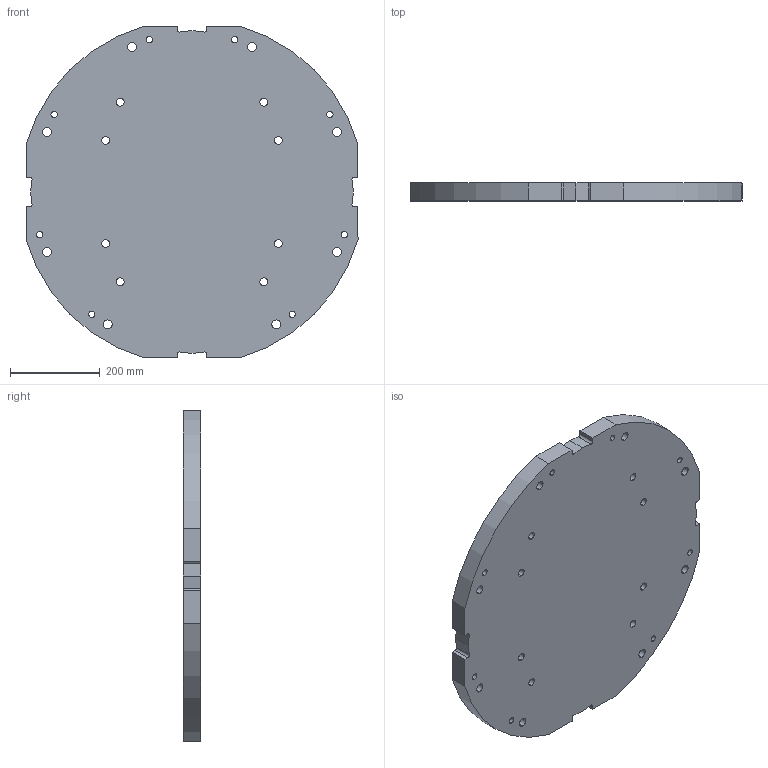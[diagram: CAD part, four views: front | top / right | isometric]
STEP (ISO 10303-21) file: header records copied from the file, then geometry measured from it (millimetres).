
FILE_DESCRIPTION (( 'STEP AP214' ), '1' );
FILE_NAME ('M.STEP', '2024-01-18T08:12:42', ( '' ), ( '' ), 'SwSTEP 2.0', 'SolidWorks 2022', '' );
FILE_SCHEMA (( 'AUTOMOTIVE_DESIGN' ));
Length unit declared in the file: millimetre
Products named in the file (1): M
Bounding box: 740 x 40 x 740 mm (x, y, z)
Volume: 17926861.1 mm3; surface area: 1050813.5 mm2
Topology: 1 solids, 1 shells, 102 faces, 296 edges, 194 vertices
Faces by surface type: cylinder 72, plane 26, cone 4
Entity records: 3886 total; most frequent: DIRECTION 642, CARTESIAN_POINT 589, ORIENTED_EDGE 584, EDGE_CURVE 292, AXIS2_PLACEMENT_3D 247, VERTEX_POINT 194, EDGE_LOOP 152, LINE 148
